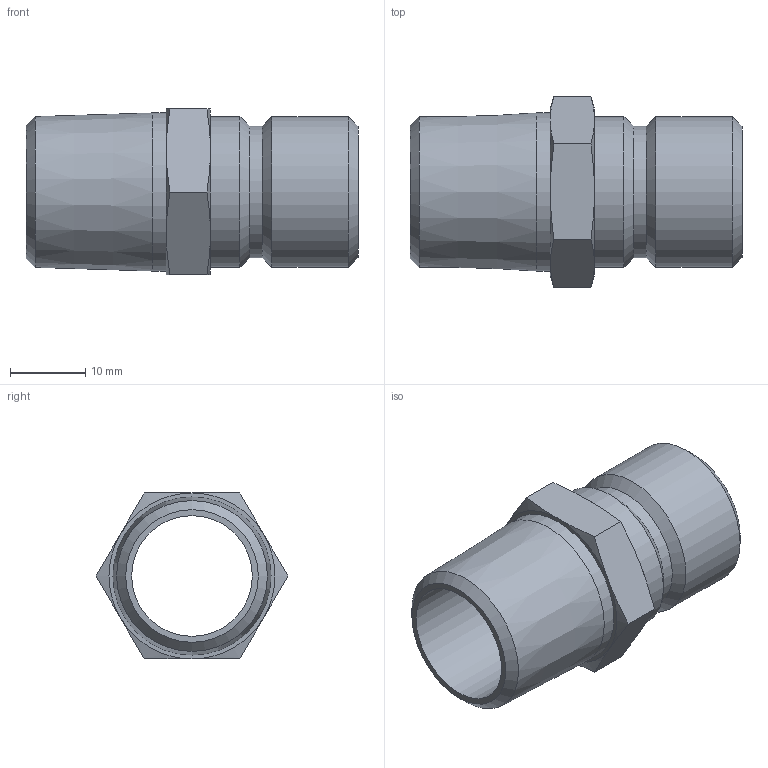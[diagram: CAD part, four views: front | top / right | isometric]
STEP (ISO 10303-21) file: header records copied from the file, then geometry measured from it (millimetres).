
FILE_DESCRIPTION(/* description */ ('STEP AP214'),/* implementation_level */ '2;1');
FILE_NAME(/* name */ 'N1612A',/* time_stamp */ '2024-12-19T09:29:52+01:00',/* author */ ('License CC BY-ND 4.0'),/* organization */ ('CADENAS'),/* preprocessor_version */ 'ST-DEVELOPER v19.3',/* originating_system */ 'PARTsolutions',/* authorisation */ ' ');
FILE_SCHEMA (('AUTOMOTIVE_DESIGN {1 0 10303 214 3 1 1}'));
Length unit declared in the file: millimetre
Products named in the file (1): N1612A
Bounding box: 44 x 25.4 x 22 mm (x, y, z)
Volume: 5549.7 mm3; surface area: 5410.3 mm2
Topology: 1 solids, 1 shells, 32 faces, 65 edges, 37 vertices
Faces by surface type: cone 17, plane 10, cylinder 5
Full cylindrical faces by diameter (mm): 16 x1, 17.44 x1, 20 x2, 20.955 x1
Entity records: 830 total; most frequent: CARTESIAN_POINT 197, DIRECTION 122, ORIENTED_EDGE 110, AXIS2_PLACEMENT_3D 58, EDGE_CURVE 55, EDGE_LOOP 46, FACE_BOUND 46, VERTEX_POINT 37
